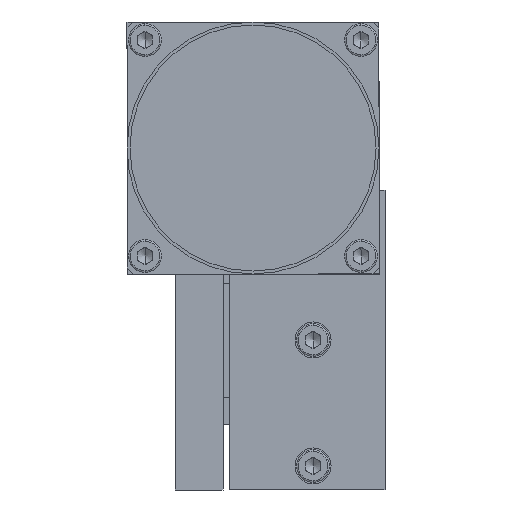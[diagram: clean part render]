
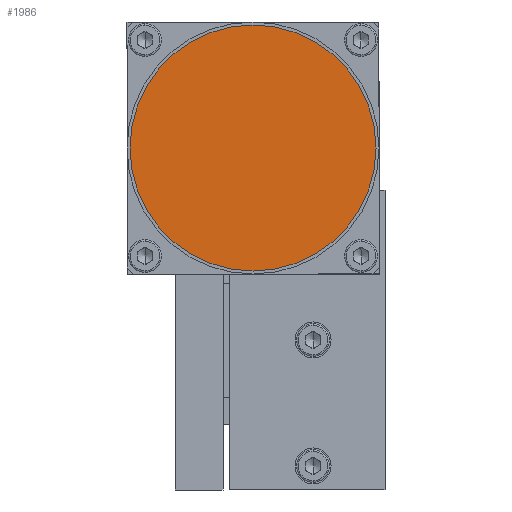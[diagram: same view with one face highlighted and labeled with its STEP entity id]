
A CAD part, left-side view. The second image highlights one B-rep face of the part: STEP entity #1986.
In plain terms, the highlighted planar face has unit normal (-1, 0, 0).
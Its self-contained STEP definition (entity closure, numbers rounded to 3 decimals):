
#1986 = ADVANCED_FACE ( 'NONE', ( #16078 ), #16077, .F. ) ;
#1988 = EDGE_LOOP ( 'NONE', ( #1991, #1993 ) ) ;
#1991 = ORIENTED_EDGE ( 'NONE', *, *, #1992, .F. ) ;
#1992 = EDGE_CURVE ( 'NONE', #2563, #2482, #16066, .T. ) ;
#1993 = ORIENTED_EDGE ( 'NONE', *, *, #2549, .F. ) ;
#2482 = VERTEX_POINT ( 'NONE', #16988 ) ;
#2549 = EDGE_CURVE ( 'NONE', #2482, #2563, #17137, .T. ) ;
#2563 = VERTEX_POINT ( 'NONE', #17172 ) ;
#16062 = DIRECTION ( 'NONE',  ( 0., 0., 1. ) ) ;
#16063 = DIRECTION ( 'NONE',  ( 1., 0., 0. ) ) ;
#16064 = CARTESIAN_POINT ( 'NONE',  ( -62.754, 22.32, 57. ) ) ;
#16065 = AXIS2_PLACEMENT_3D ( 'NONE', #16064, #16063, #16062 ) ;
#16066 = CIRCLE ( 'NONE', #16065, 20.5 ) ;
#16073 = DIRECTION ( 'NONE',  ( 0., 0., -1. ) ) ;
#16074 = DIRECTION ( 'NONE',  ( 1., 0., 0. ) ) ;
#16075 = CARTESIAN_POINT ( 'NONE',  ( -62.754, 22.32, 57. ) ) ;
#16076 = AXIS2_PLACEMENT_3D ( 'NONE', #16075, #16074, #16073 ) ;
#16077 = PLANE ( 'NONE',  #16076 ) ;
#16078 = FACE_OUTER_BOUND ( 'NONE', #1988, .T. ) ;
#16988 = CARTESIAN_POINT ( 'NONE',  ( -62.754, 22.32, 36.5 ) ) ;
#17133 = DIRECTION ( 'NONE',  ( 0., 0., 1. ) ) ;
#17134 = DIRECTION ( 'NONE',  ( 1., 0., 0. ) ) ;
#17135 = CARTESIAN_POINT ( 'NONE',  ( -62.754, 22.32, 57. ) ) ;
#17136 = AXIS2_PLACEMENT_3D ( 'NONE', #17135, #17134, #17133 ) ;
#17137 = CIRCLE ( 'NONE', #17136, 20.5 ) ;
#17172 = CARTESIAN_POINT ( 'NONE',  ( -62.754, 22.32, 77.5 ) ) ;
